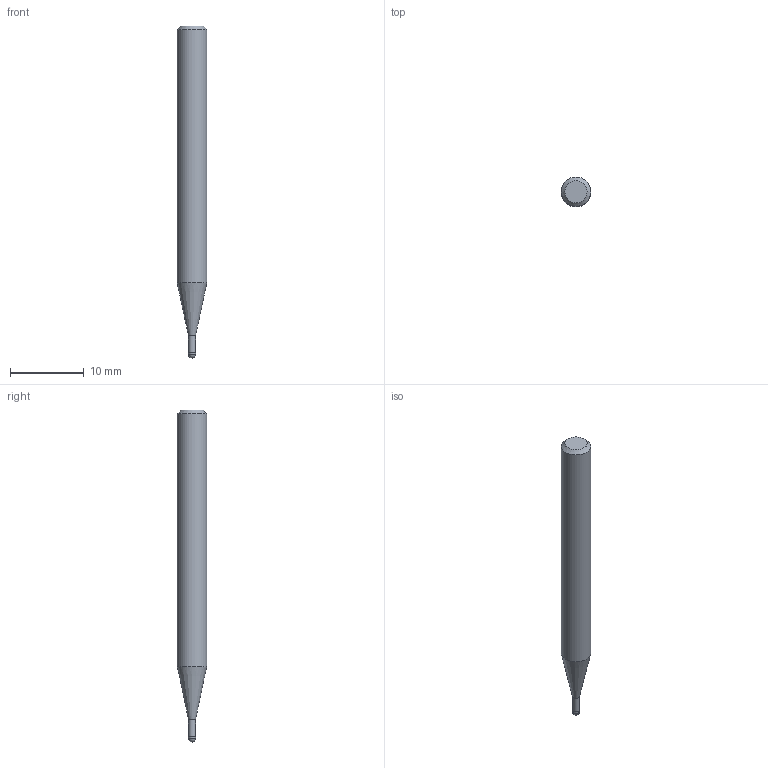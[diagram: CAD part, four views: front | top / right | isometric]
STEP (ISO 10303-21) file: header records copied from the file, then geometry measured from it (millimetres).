
FILE_DESCRIPTION((''),'2;1');
FILE_NAME('C:\Users\nsx150\AppData\Local\Temp\Mastercam 2021\ZXBT0ST9RL\TEMP.step','2021-06-25T11:02:49',(''),(''),'STEP Write','Mastercam 2021 ... CNC Software, Inc.','');
FILE_SCHEMA(('AUTOMOTIVE_DESIGN'));
Length unit declared in the file: millimetre
Products named in the file (1): None
Bounding box: 4 x 4 x 45 mm (x, y, z)
Volume: 477.1 mm3; surface area: 513.8 mm2
Topology: 2 solids, 2 shells, 9 faces, 14 edges, 8 vertices
Faces by surface type: plane 3, cylinder 3, cone 2, sphere 1
Full cylindrical faces by diameter (mm): 0.95 x1, 1 x1, 4 x1
Entity records: 211 total; most frequent: DIRECTION 36, CARTESIAN_POINT 25, AXIS2_PLACEMENT_3D 18, ORIENTED_EDGE 14, EDGE_LOOP 14, STYLED_ITEM 12, ADVANCED_FACE 9, FACE_BOUND 8
